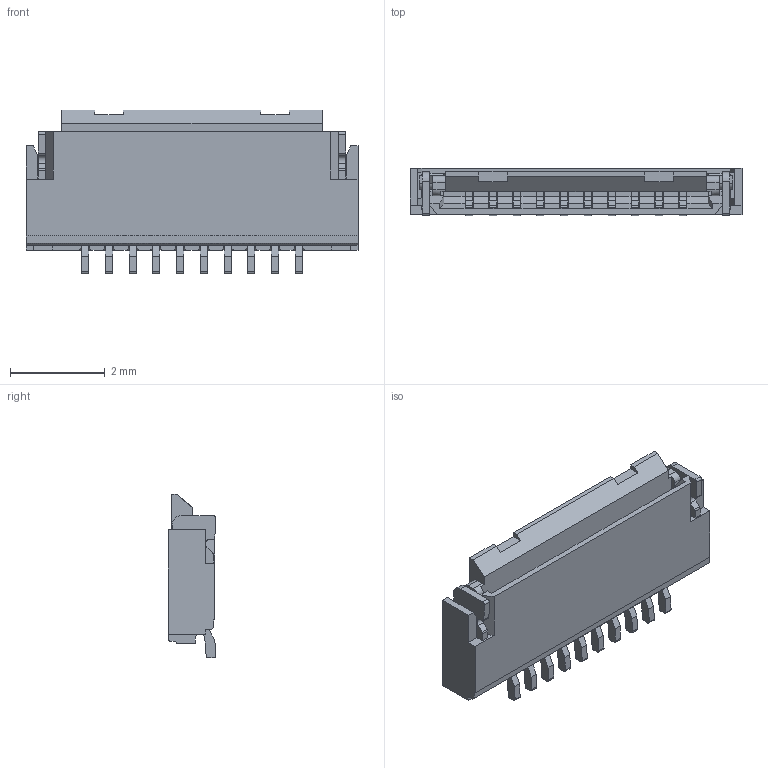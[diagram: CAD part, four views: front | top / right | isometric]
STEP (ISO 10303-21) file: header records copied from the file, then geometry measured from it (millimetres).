
FILE_DESCRIPTION((''),'2;1');
FILE_NAME('S-51614-007XX-XXX','2014-05-23T',('d21450'),(''),'PRO/ENGINEER BY PARAMETRIC TECHNOLOGY CORPORATION, 2009360','PRO/ENGINEER BY PARAMETRIC TECHNOLOGY CORPORATION, 2009360','');
FILE_SCHEMA(('CONFIG_CONTROL_DESIGN'));
Length unit declared in the file: millimetre
Products named in the file (1): S-51614-007XX-XXX
Bounding box: 7 x 1 x 3.45 mm (x, y, z)
Volume: 11.9 mm3; surface area: 136.2 mm2
Topology: 1 solids, 1 shells, 866 faces, 2970 edges, 1982 vertices
Faces by surface type: plane 580, cylinder 286
Entity records: 32371 total; most frequent: ORIENTED_EDGE 5844, CARTESIAN_POINT 5772, DIRECTION 5440, EDGE_CURVE 2922, VECTOR 2236, LINE 2236, VERTEX_POINT 1934, AXIS2_PLACEMENT_3D 1602
